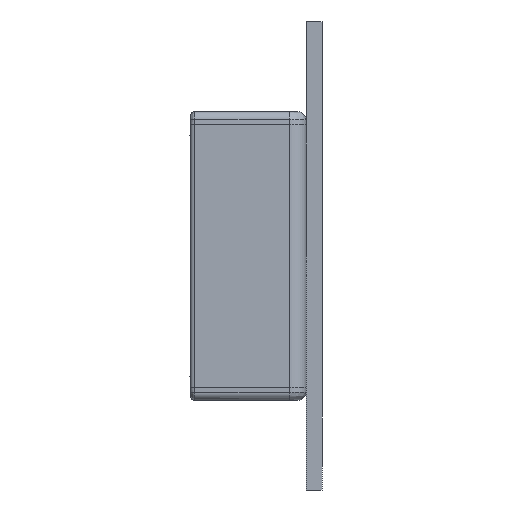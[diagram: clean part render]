
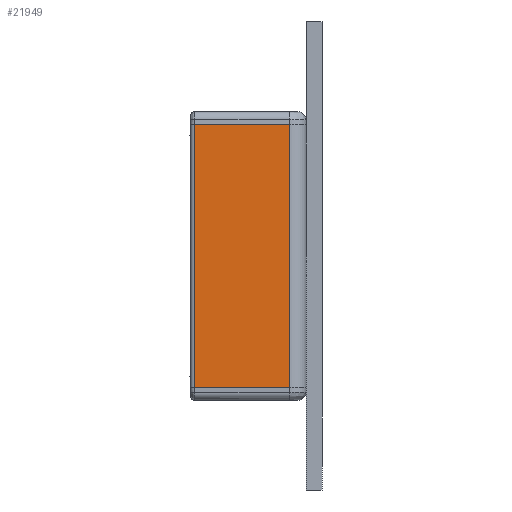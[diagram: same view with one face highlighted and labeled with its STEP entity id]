
A CAD part, left-side view. The second image highlights one B-rep face of the part: STEP entity #21949.
In plain terms, the highlighted planar face has unit normal (-1, 0, 0).
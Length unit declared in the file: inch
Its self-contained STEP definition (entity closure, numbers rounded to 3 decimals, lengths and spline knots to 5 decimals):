
#366=DIRECTION('',(0.,0.,1.));
#367=VECTOR('',#366,1.96);
#368=CARTESIAN_POINT('',(-2.5,0.40326,0.));
#369=LINE('',#368,#367);
#405=DIRECTION('',(0.,1.,0.));
#406=VECTOR('',#405,0.71151);
#407=CARTESIAN_POINT('',(-2.5,-0.30825,1.96));
#408=LINE('',#407,#406);
#409=DIRECTION('',(0.,-1.,0.));
#410=VECTOR('',#409,0.71151);
#411=CARTESIAN_POINT('',(-2.5,0.40326,0.));
#412=LINE('',#411,#410);
#422=DIRECTION('',(0.,0.,1.));
#423=VECTOR('',#422,1.96);
#424=CARTESIAN_POINT('',(-2.5,-0.30825,0.));
#425=LINE('',#424,#423);
#17959=CARTESIAN_POINT('',(-2.5,0.40326,0.));
#17960=CARTESIAN_POINT('',(-2.5,-0.30825,0.));
#17961=VERTEX_POINT('',#17959);
#17962=VERTEX_POINT('',#17960);
#19528=CARTESIAN_POINT('',(-2.5,-0.30825,1.96));
#19529=CARTESIAN_POINT('',(-2.5,0.40326,1.96));
#19530=VERTEX_POINT('',#19528);
#19531=VERTEX_POINT('',#19529);
#21936=CARTESIAN_POINT('',(-2.5,-0.43325,1.96));
#21937=DIRECTION('',(-1.,0.,0.));
#21938=DIRECTION('',(0.,1.,0.));
#21939=AXIS2_PLACEMENT_3D('',#21936,#21937,#21938);
#21940=PLANE('',#21939);
#21941=ORIENTED_EDGE('',*,*,#21927,.F.);
#21943=ORIENTED_EDGE('',*,*,#21942,.F.);
#21945=ORIENTED_EDGE('',*,*,#21944,.F.);
#21946=ORIENTED_EDGE('',*,*,#21901,.T.);
#21947=EDGE_LOOP('',(#21941,#21943,#21945,#21946));
#21948=FACE_OUTER_BOUND('',#21947,.F.);
#21949=ADVANCED_FACE('',(#21948),#21940,.T.);
#21901=EDGE_CURVE('',#17961,#19531,#369,.T.);
#21927=EDGE_CURVE('',#19530,#19531,#408,.T.);
#21942=EDGE_CURVE('',#17962,#19530,#425,.T.);
#21944=EDGE_CURVE('',#17961,#17962,#412,.T.);
